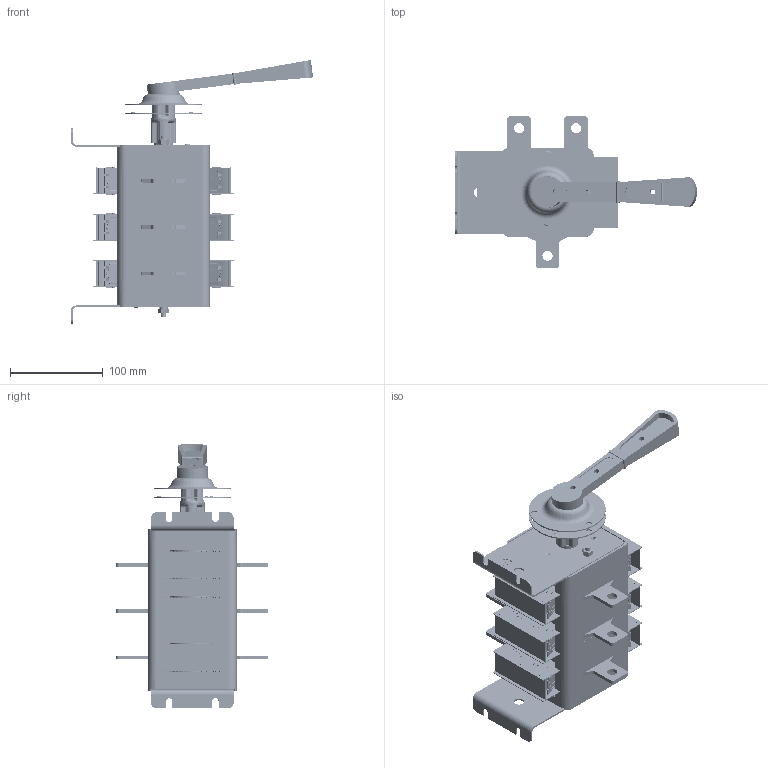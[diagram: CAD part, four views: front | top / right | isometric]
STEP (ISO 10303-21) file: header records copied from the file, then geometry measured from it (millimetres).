
FILE_DESCRIPTION (( 'STEP AP214' ), '1' );
FILE_NAME ('ﾂﾐ32-37 ﾃﾆﾈﾊ.642523.011-01 (ﾂ71250-400ﾀ).STEP', '2023-04-18T13:28:53', ( '' ), ( '' ), 'SwSTEP 2.0', 'SolidWorks 2018', '' );
FILE_SCHEMA (( 'AUTOMOTIVE_DESIGN' ));
Length unit declared in the file: millimetre
Products named in the file (36): 羊屙赅 闷仁.741226.007; 殃钺郷闷仁.746743.011; Âòóëêà ÃÆÈÊ.713141.010_-01 (¤«ï á¡®àª¨); ﾂ鏆鮏 ﾃﾆﾈﾊ.745485.017; 务黖闷仁.715411.019; Áîêîâèíà ïðàâàÿ ÃÆÈÊ.735224.034; Áîêîâèíà ëåâàÿ ÃÆÈÊ.735224.034; 想囫蜩磬_闷仁.745355.032; Òàáëè÷êà äëÿ ñáîðêè ÷èñòàÿ; 锐牮钽囫栩咫黖闷仁.741271.007_帷獱; ﾘ琺矜 D15; Øïèëüêà Ì6 ÃÆÈÊ.758292.005; Êîðïóñ ñðåäíèé ÃÆÈÊ.735384.061; ﾂ鏆鮏 ﾃﾆﾈﾊ.745485.016; Êàìåðà äóãîãàñèòåëüíàÿ ÃÆÈÊ.686431.030; Ãàéêà 2Ì6-6Í.5.016; ﾂﾐ32-37 ﾃﾆﾈﾊ.642523.011-01 (ﾂ71250-400ﾀ); ﾏ跖浯_ﾃﾆﾈﾊ.753553.011_-01 (癸ｮ爼); Òàáëè÷êà äëÿ ñáîðêè ÷èñòàÿ áîëüøàÿ; 想囫蜩磬_-01 (帷獱); 想囫蜩磬_闷仁.745355.007; Êîíòàêò ïîäâèæíûé_ÃÆÈÊ.745355.031; 锐牮钽囫栩咫黖闷仁.741271.007; ﾘ琺矜 6 65ﾃ 016; 澡犟囹铕_闷仁.745484.006; 暑痫篑 镳噔 闷仁.735384.060; Ðóêîÿòêà ÃÆÈÊ.303658.010; Êîíòàêò ïîäâèæíûé ÃÆÈÊ.685179.159; ﾘ琺矜 ﾃﾆﾈﾊ.758491.056; 锐牮钽囫栩咫黖闷仁.686433.012蚜; Êîðïóñ ëåâûé ÃÆÈÊ.735384.062; ﾎﾁﾎﾋﾎﾗﾊﾀ_ﾍ; Ïëàñòèíà óïðàâëåíèÿ; Ôëàíåö ÃÆÈÊ.712378.001_-01 (2 ­ ¯à ¢«¥­¨ï); ﾂ琿 ﾃﾆﾈﾊ.715274.007; ﾘ琺矜 D32
Assembly tree (72 placements, depth 4):
  ﾂﾐ32-37 ﾃﾆﾈﾊ.642523.011-01 (ﾂ71250-400ﾀ)
    Êîðïóñ ëåâûé ÃÆÈÊ.735384.062
    Êîðïóñ ñðåäíèé ÃÆÈÊ.735384.061  x2
    Áîêîâèíà ëåâàÿ ÃÆÈÊ.735224.034
    暑痫篑 镳噔 闷仁.735384.060
    ﾂ鏆鮏 ﾃﾆﾈﾊ.745485.016  x6
    ﾂ鏆鮏 ﾃﾆﾈﾊ.745485.017  x3
    Êîíòàêò ïîäâèæíûé ÃÆÈÊ.685179.159  x3
      Êîíòàêò ïîäâèæíûé_ÃÆÈÊ.745355.031
      想囫蜩磬_闷仁.745355.007
      澡犟囹铕_闷仁.745484.006
      务黖闷仁.715411.019
      ﾏ跖浯_ﾃﾆﾈﾊ.753553.011_-01 (癸ｮ爼)
    ﾂ琿 ﾃﾆﾈﾊ.715274.007
    Êàìåðà äóãîãàñèòåëüíàÿ ÃÆÈÊ.686431.030  x6
      羊屙赅 闷仁.741226.007
      想囫蜩磬_闷仁.745355.032
      锐牮钽囫栩咫黖闷仁.686433.012蚜
        锐牮钽囫栩咫黖闷仁.741271.007_帷獱
        殃钺郷闷仁.746743.011
      锐牮钽囫栩咫黖闷仁.741271.007
    Áîêîâèíà ïðàâàÿ ÃÆÈÊ.735224.034
    Âòóëêà ÃÆÈÊ.713141.010_-01 (¤«ï á¡®àª¨)
    Ôëàíåö ÃÆÈÊ.712378.001_-01 (2 ­ ¯à ¢«¥­¨ï)
    ﾘ琺矜 ﾃﾆﾈﾊ.758491.056
    Ðóêîÿòêà ÃÆÈÊ.303658.010
      ﾘ琺矜 D32
      ﾘ琺矜 D15
      Ïëàñòèíà óïðàâëåíèÿ
      想囫蜩磬_-01 (帷獱)
      ﾎﾁﾎﾋﾎﾗﾊﾀ_ﾍ
    Øïèëüêà Ì6 ÃÆÈÊ.758292.005  x2
    Ãàéêà 2Ì6-6Í.5.016  x4
    ﾘ琺矜 6 65ﾃ 016  x4
    Òàáëè÷êà äëÿ ñáîðêè ÷èñòàÿ
    Òàáëè÷êà äëÿ ñáîðêè ÷èñòàÿ áîëüøàÿ
Bounding box: 261.38 x 163.75 x 284.86 mm (x, y, z)
Volume: 943554.8 mm3; surface area: 679549.9 mm2
Topology: 160 solids, 160 shells, 6782 faces, 17875 edges, 11417 vertices
Faces by surface type: plane 4617, cylinder 1595, torus 396, cone 84, bspline 80, sphere 10
Entity records: 127339 total; most frequent: CARTESIAN_POINT 80619, DIRECTION 9090, ORIENTED_EDGE 8804, EDGE_CURVE 4402, AXIS2_PLACEMENT_3D 3125, VERTEX_POINT 2859, LINE 2840, VECTOR 2840
